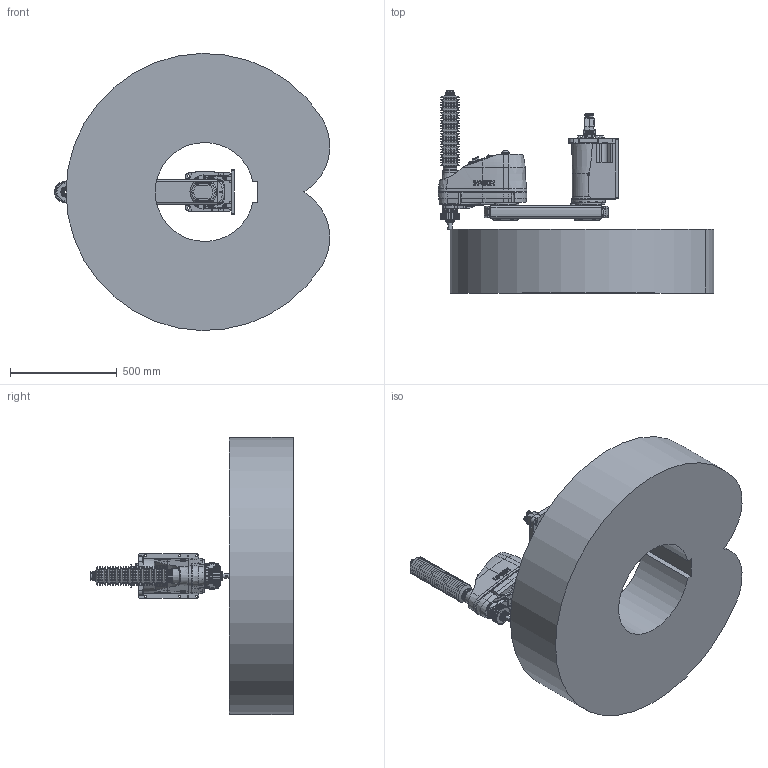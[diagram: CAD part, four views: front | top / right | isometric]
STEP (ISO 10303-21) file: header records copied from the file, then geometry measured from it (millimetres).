
FILE_DESCRIPTION( ( 'STEP AP214' ), '1' );
FILE_NAME( 'C:/Users/9607552/Desktop/GX8-B653CW_straight.stp', '2023-07-07T03:10:33', ( '' ), ( '' ), ' ', 'PARTsolutions', ' ' );
FILE_SCHEMA( ( 'AUTOMOTIVE_DESIGN { 1 0 10303 214 1 1 1 1 }' ) );
Length unit declared in the file: millimetre
Products named in the file (11): GX8-B653CWS-W; _B652CW_BASE; _B652CR; _B652CR_1; _B652CR_2; _B452C_J2; _B453CZA; _2-B-long; _2-B-short; _Straight-B; _GX8-24-1-B_WS
Assembly tree (12 placements, depth 2):
  GX8-B653CWS-W
    _B652CW_BASE
    _B652CR
    _B652CR_1  x2
    _B652CR_2  x2
    _B452C_J2
    _B453CZA
    _2-B-long
    _2-B-short
    _Straight-B
    _GX8-24-1-B_WS
Bounding box: 1291.63 x 950.5 x 1299.55 mm (x, y, z)
Volume: 360732794.3 mm3; surface area: 5507927.5 mm2
Topology: 12 solids, 16 shells, 3421 faces, 8232 edges, 5300 vertices
Faces by surface type: plane 1619, cylinder 1122, cone 476, torus 162, bspline 37, sphere 5
Full cylindrical faces by diameter (mm): 1 x48, 1.18 x55, 2.261 x4, 2.459 x12, 3 x32, 3.242 x18, 3.3 x4, 3.9 x4, 4.2 x8, 4.5 x12, 4.8 x5, 5.34 x4, 5.5 x17, 6 x6, 6.2 x4, 6.647 x4, 6.8 x2, 7 x42, 8 x5, 8.5 x4, 9 x24, 10 x24, 11 x4, 11.2 x5, 11.5 x1, 12 x5, 12.2 x1, 12.25 x1, 13 x7, 13.2 x12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
Entity records: 120968 total; most frequent: CARTESIAN_POINT 22385, DIRECTION 15127, ORIENTED_EDGE 13506, EDGE_CURVE 6753, AXIS2_PLACEMENT_3D 5954, VERTEX_POINT 4907, EDGE_LOOP 4684, FACE_OUTER_BOUND 3871
